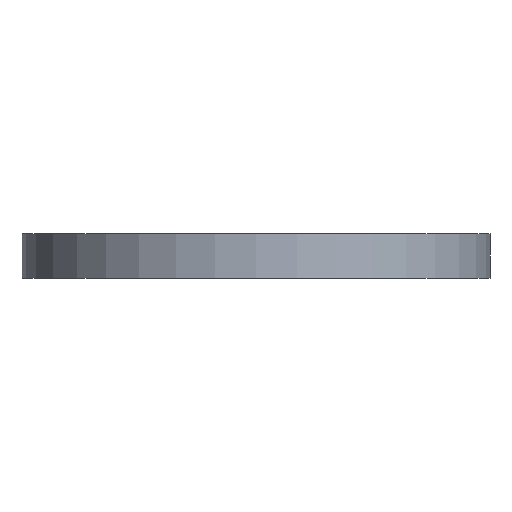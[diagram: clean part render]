
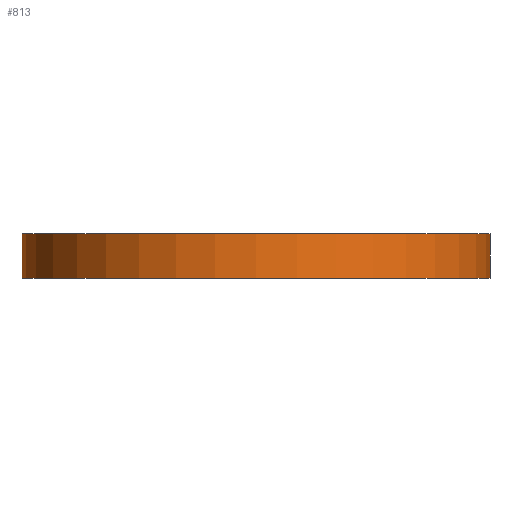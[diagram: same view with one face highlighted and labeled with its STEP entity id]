
A CAD part, front view. The second image highlights one B-rep face of the part: STEP entity #813.
In plain terms, the highlighted cylindrical face has radius 445 mm (diameter 890 mm), a partial arc.
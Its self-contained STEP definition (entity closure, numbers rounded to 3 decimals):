
#58 = CIRCLE ( 'NONE', #61, 445. ) ;
#61 = AXIS2_PLACEMENT_3D ( 'NONE', #431, #429, #428 ) ;
#172 = CARTESIAN_POINT ( 'NONE',  ( -445., 0., -84. ) ) ;
#242 = DIRECTION ( 'NONE',  ( 1., 0., 0. ) ) ;
#244 = DIRECTION ( 'NONE',  ( 0., 0., 1. ) ) ;
#245 = CARTESIAN_POINT ( 'NONE',  ( 0., 0., 0. ) ) ;
#328 = DIRECTION ( 'NONE',  ( 0., 0., 1. ) ) ;
#329 = CARTESIAN_POINT ( 'NONE',  ( 445., 0., -150. ) ) ;
#331 = LINE ( 'NONE', #329, #405 ) ;
#405 = VECTOR ( 'NONE', #328, 1000. ) ;
#428 = DIRECTION ( 'NONE',  ( -1., 0., 0. ) ) ;
#429 = DIRECTION ( 'NONE',  ( 0., 0., -1. ) ) ;
#431 = CARTESIAN_POINT ( 'NONE',  ( 0., 0., -84. ) ) ;
#439 = DIRECTION ( 'NONE',  ( 0., 0., 1. ) ) ;
#440 = CARTESIAN_POINT ( 'NONE',  ( -445., 0., -150. ) ) ;
#441 = LINE ( 'NONE', #440, #1334 ) ;
#495 = CARTESIAN_POINT ( 'NONE',  ( 445., 0., -84. ) ) ;
#528 = CARTESIAN_POINT ( 'NONE',  ( -445., 0., 0. ) ) ;
#629 = CARTESIAN_POINT ( 'NONE',  ( 445., 0., 0. ) ) ;
#695 = DIRECTION ( 'NONE',  ( 1., 0., 0. ) ) ;
#698 = DIRECTION ( 'NONE',  ( 0., 0., 1. ) ) ;
#699 = CARTESIAN_POINT ( 'NONE',  ( 0., 0., -150. ) ) ;
#700 = CYLINDRICAL_SURFACE ( 'NONE', #1008, 445. ) ;
#702 = FACE_OUTER_BOUND ( 'NONE', #1574, .T. ) ;
#813 = ADVANCED_FACE ( 'NONE', ( #702 ), #700, .T. ) ;
#1008 = AXIS2_PLACEMENT_3D ( 'NONE', #699, #698, #695 ) ;
#1050 = VERTEX_POINT ( 'NONE', #629 ) ;
#1152 = VERTEX_POINT ( 'NONE', #528 ) ;
#1213 = VERTEX_POINT ( 'NONE', #495 ) ;
#1334 = VECTOR ( 'NONE', #439, 1000. ) ;
#1336 = ORIENTED_EDGE ( 'NONE', *, *, #1563, .F. ) ;
#1345 = EDGE_CURVE ( 'NONE', #1647, #1152, #441, .T. ) ;
#1346 = ORIENTED_EDGE ( 'NONE', *, *, #1488, .T. ) ;
#1350 = ORIENTED_EDGE ( 'NONE', *, *, #1345, .F. ) ;
#1373 = EDGE_CURVE ( 'NONE', #1213, #1647, #58, .T. ) ;
#1453 = AXIS2_PLACEMENT_3D ( 'NONE', #245, #244, #242 ) ;
#1456 = CIRCLE ( 'NONE', #1453, 445. ) ;
#1488 = EDGE_CURVE ( 'NONE', #1213, #1050, #331, .T. ) ;
#1563 = EDGE_CURVE ( 'NONE', #1152, #1050, #1456, .T. ) ;
#1574 = EDGE_LOOP ( 'NONE', ( #1350, #1598, #1346, #1336 ) ) ;
#1598 = ORIENTED_EDGE ( 'NONE', *, *, #1373, .F. ) ;
#1647 = VERTEX_POINT ( 'NONE', #172 ) ;
